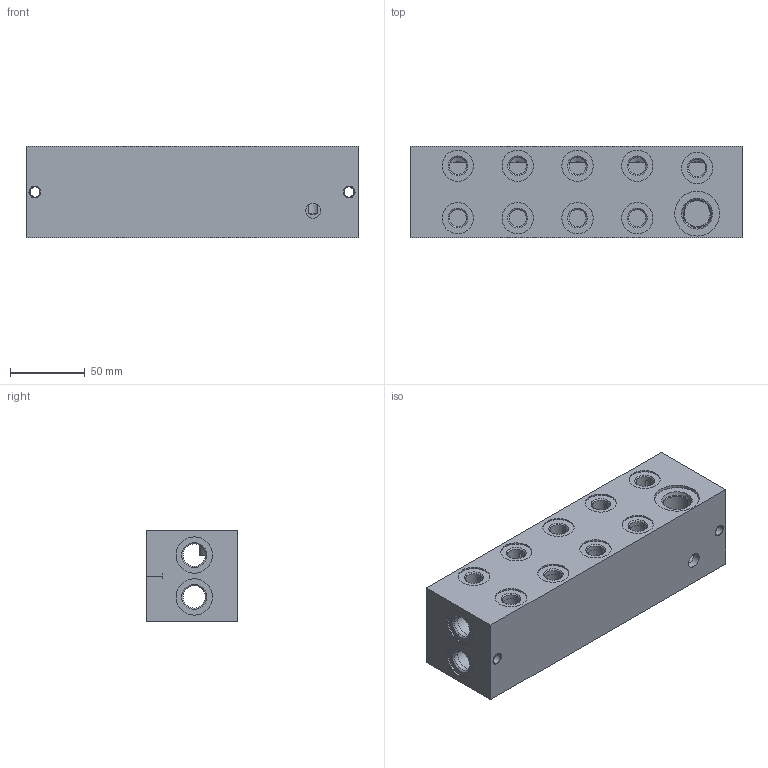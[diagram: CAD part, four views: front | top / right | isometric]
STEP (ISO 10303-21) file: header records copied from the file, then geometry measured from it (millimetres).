
FILE_DESCRIPTION((''),'2;1');
FILE_NAME('760_6940','2015-11-27T',('Ahcz.brigadnik05'),(''),'PRO/ENGINEER BY PARAMETRIC TECHNOLOGY CORPORATION, 2015110','PRO/ENGINEER BY PARAMETRIC TECHNOLOGY CORPORATION, 2015110','');
FILE_SCHEMA(('AUTOMOTIVE_DESIGN { 1 0 10303 214 1 1 1 1 }'));
Length unit declared in the file: millimetre
Products named in the file (1): 760_6940
Bounding box: 222 x 61 x 61 mm (x, y, z)
Volume: 312028.9 mm3; surface area: 125750.4 mm2
Topology: 1 solids, 37 shells, 334 faces, 1668 edges, 1553 vertices
Faces by surface type: cylinder 219, plane 68, cone 47
Entity records: 18451 total; most frequent: CARTESIAN_POINT 3791, DIRECTION 2784, ORIENTED_EDGE 1722, VECTOR 1062, LINE 1062, EDGE_CURVE 933, AXIS2_PLACEMENT_3D 861, TRIMMED_CURVE 730
